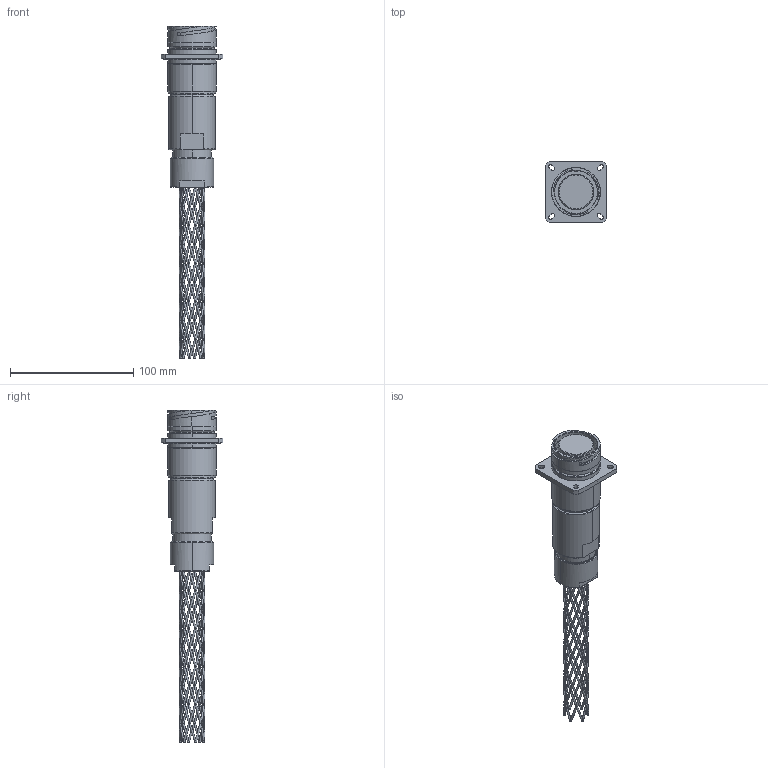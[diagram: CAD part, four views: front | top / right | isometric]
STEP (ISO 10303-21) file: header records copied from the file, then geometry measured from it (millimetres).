
FILE_DESCRIPTION (( 'STEP AP214' ), '1' );
FILE_NAME ('QLINK-RFBX-23XX-GXXX-RA.STEP', '2025-12-16T16:20:17', ( '' ), ( '' ), 'SwSTEP 2.0', 'SolidWorks 2024', '' );
FILE_SCHEMA (( 'AUTOMOTIVE_DESIGN' ));
Length unit declared in the file: millimetre
Products named in the file (1): QLINK-RFBX-23XX-GXXX-RA
Bounding box: 50.04 x 50.04 x 268.99 mm (x, y, z)
Volume: 145617.2 mm3; surface area: 35763.1 mm2
Topology: 2 solids, 2 shells, 423 faces, 1163 edges, 656 vertices
Faces by surface type: bspline 233, cylinder 77, plane 68, torus 26, cone 19
Entity records: 117107 total; most frequent: CARTESIAN_POINT 108919, ORIENTED_EDGE 2326, EDGE_CURVE 1163, DIRECTION 1120, VERTEX_POINT 656, AXIS2_PLACEMENT_3D 479, EDGE_LOOP 453, ADVANCED_FACE 423
